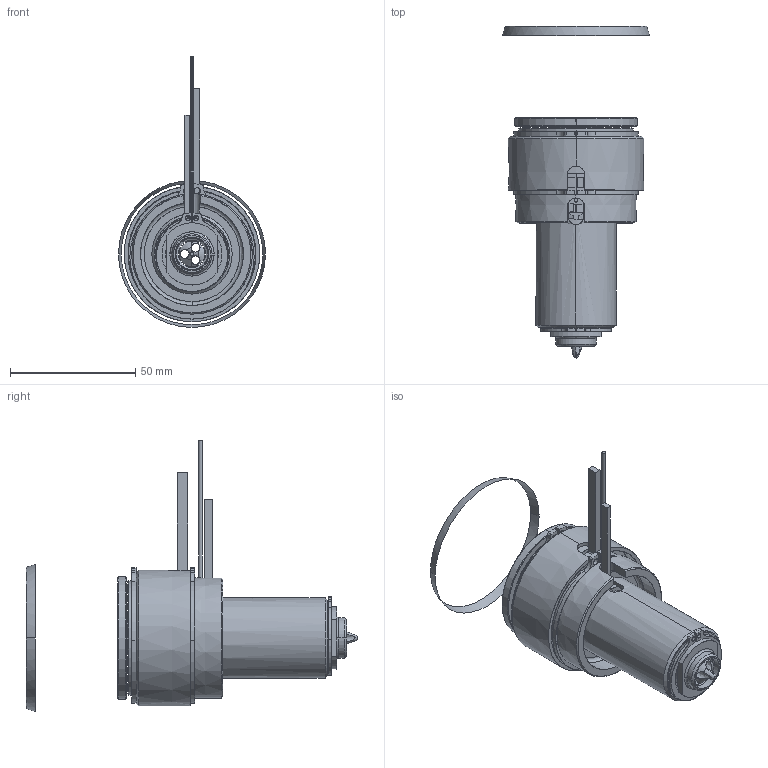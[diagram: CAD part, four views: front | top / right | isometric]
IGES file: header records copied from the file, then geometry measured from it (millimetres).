
Start section: SolidWorks IGES file using analytic representation for surfaces
Global section: file name: C:\Documents and Settings\ws-20\Desktop\TEM\UGEP5501-S-A-0 [Øf-1.36 ØC-13].IGS; native system: SolidWorks 2012; preprocessor: SolidWorks 2012; author: ws-20; date: 120427.081322; units: millimetre
Bounding box: 58.57 x 132.24 x 107.94 mm (x, y, z)
Surface area: 49348 mm2 (no closed solid volume)
Topology: 0 solids, 0 shells, 180 faces, 3672 edges, 3672 vertices
Faces by surface type: revolution 115, bspline 65
